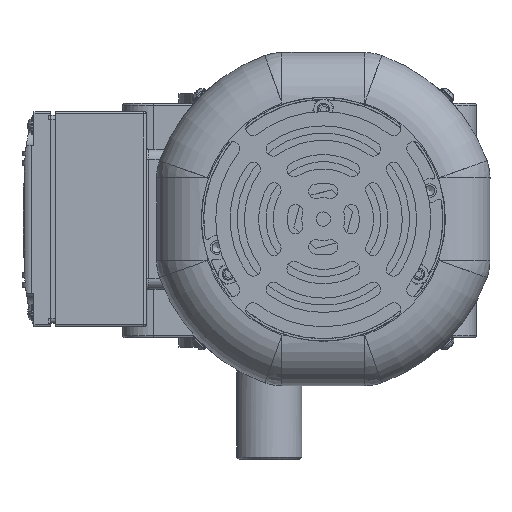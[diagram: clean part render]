
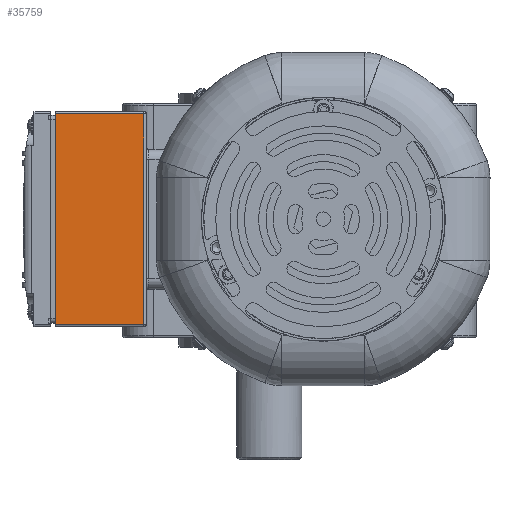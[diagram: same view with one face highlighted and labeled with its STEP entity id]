
A CAD part, left-side view. The second image highlights one B-rep face of the part: STEP entity #35759.
In plain terms, the highlighted planar face has unit normal (-1, 0, 0).
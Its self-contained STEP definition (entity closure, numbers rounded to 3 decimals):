
#2303=LINE('',#64925,#4810);
#2450=LINE('',#65333,#4957);
#2451=LINE('',#65338,#4958);
#2462=LINE('',#65378,#4969);
#4810=VECTOR('',#47801,10.);
#4957=VECTOR('',#48206,10.);
#4958=VECTOR('',#48211,10.);
#4969=VECTOR('',#48266,10.);
#8263=FACE_OUTER_BOUND('',#10449,.T.);
#10449=EDGE_LOOP('',(#28883,#28884,#28885,#28886));
#15618=VERTEX_POINT('',#64922);
#15619=VERTEX_POINT('',#64924);
#15751=VERTEX_POINT('',#65331);
#15752=VERTEX_POINT('',#65335);
#20092=EDGE_CURVE('',#15619,#15618,#2303,.T.);
#20297=EDGE_CURVE('',#15619,#15751,#2450,.T.);
#20299=EDGE_CURVE('',#15752,#15618,#2451,.T.);
#20320=EDGE_CURVE('',#15751,#15752,#2462,.T.);
#28883=ORIENTED_EDGE('',*,*,#20320,.F.);
#28884=ORIENTED_EDGE('',*,*,#20297,.F.);
#28885=ORIENTED_EDGE('',*,*,#20092,.T.);
#28886=ORIENTED_EDGE('',*,*,#20299,.F.);
#32393=PLANE('',#39445);
#35759=ADVANCED_FACE('',(#8263),#32393,.T.);
#39445=AXIS2_PLACEMENT_3D('',#65509,#48424,#48425);
#47801=DIRECTION('',(0.,0.,-1.));
#48206=DIRECTION('',(0.,-1.,0.));
#48211=DIRECTION('',(0.,1.,0.));
#48266=DIRECTION('',(0.,0.,-1.));
#48424=DIRECTION('center_axis',(-1.,0.,0.));
#48425=DIRECTION('ref_axis',(0.,1.,0.));
#64922=CARTESIAN_POINT('',(-204.,84.06,-39.639));
#64924=CARTESIAN_POINT('',(-204.,84.06,48.361));
#64925=CARTESIAN_POINT('',(-204.,84.06,-40.639));
#65331=CARTESIAN_POINT('',(-204.,47.06,48.361));
#65333=CARTESIAN_POINT('',(-204.,46.06,48.361));
#65335=CARTESIAN_POINT('',(-204.,47.06,-39.639));
#65338=CARTESIAN_POINT('',(-204.,46.06,-39.639));
#65378=CARTESIAN_POINT('',(-204.,47.06,26.861));
#65509=CARTESIAN_POINT('Origin',(-204.,46.06,49.361));
